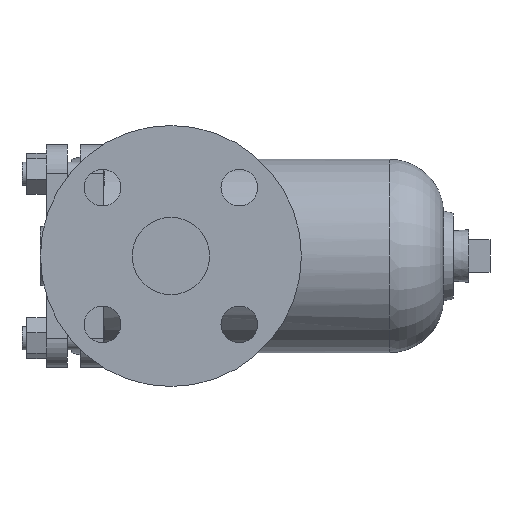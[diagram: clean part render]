
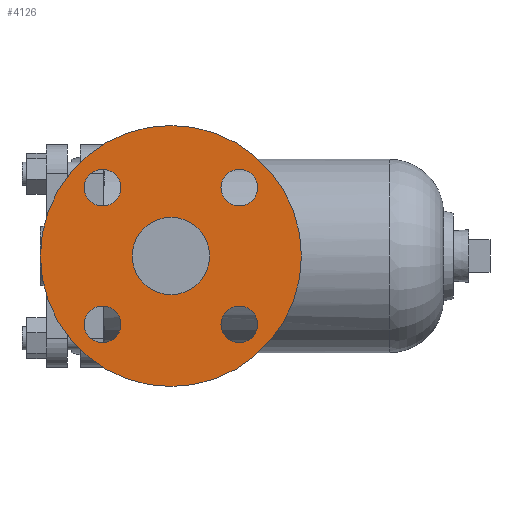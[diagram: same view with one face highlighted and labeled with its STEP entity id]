
A CAD part, left-side view. The second image highlights one B-rep face of the part: STEP entity #4126.
In plain terms, the highlighted planar face has unit normal (-1, 0, 0).
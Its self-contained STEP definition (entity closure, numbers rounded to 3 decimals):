
#6 = EDGE_LOOP ( 'NONE', ( #1291, #6515 ) ) ;
#8 = DIRECTION ( 'NONE',  ( -1., 0., 0. ) ) ;
#21 = DIRECTION ( 'NONE',  ( 0., 1., 0. ) ) ;
#23 = FACE_BOUND ( 'NONE', #902, .T. ) ;
#52 = CARTESIAN_POINT ( 'NONE',  ( -100., -35.355, -35.355 ) ) ;
#58 = ORIENTED_EDGE ( 'NONE', *, *, #4961, .F. ) ;
#77 = AXIS2_PLACEMENT_3D ( 'NONE', #6302, #3018, #5700 ) ;
#201 = AXIS2_PLACEMENT_3D ( 'NONE', #5843, #615, #2774 ) ;
#218 = EDGE_CURVE ( 'NONE', #6086, #3361, #2965, .T. ) ;
#234 = DIRECTION ( 'NONE',  ( -1., 0., 0. ) ) ;
#579 = DIRECTION ( 'NONE',  ( -1., 0., 0. ) ) ;
#615 = DIRECTION ( 'NONE',  ( -1., 0., 0. ) ) ;
#887 = ORIENTED_EDGE ( 'NONE', *, *, #1811, .F. ) ;
#902 = EDGE_LOOP ( 'NONE', ( #4850, #887 ) ) ;
#981 = VERTEX_POINT ( 'NONE', #5425 ) ;
#1022 = EDGE_LOOP ( 'NONE', ( #1280, #4246 ) ) ;
#1065 = VERTEX_POINT ( 'NONE', #3211 ) ;
#1072 = EDGE_CURVE ( 'NONE', #2814, #4235, #7070, .T. ) ;
#1126 = CARTESIAN_POINT ( 'NONE',  ( -100., 35.355, 44.855 ) ) ;
#1136 = AXIS2_PLACEMENT_3D ( 'NONE', #5120, #6620, #6235 ) ;
#1207 = EDGE_CURVE ( 'NONE', #4428, #5817, #6719, .T. ) ;
#1218 = AXIS2_PLACEMENT_3D ( 'NONE', #4387, #2176, #2711 ) ;
#1221 = CARTESIAN_POINT ( 'NONE',  ( -100., -35.355, 35.355 ) ) ;
#1261 = AXIS2_PLACEMENT_3D ( 'NONE', #1838, #2939, #6680 ) ;
#1278 = CARTESIAN_POINT ( 'NONE',  ( -100., -35.355, 25.855 ) ) ;
#1280 = ORIENTED_EDGE ( 'NONE', *, *, #5611, .F. ) ;
#1291 = ORIENTED_EDGE ( 'NONE', *, *, #218, .T. ) ;
#1491 = EDGE_CURVE ( 'NONE', #3361, #6086, #6940, .T. ) ;
#1573 = AXIS2_PLACEMENT_3D ( 'NONE', #3428, #234, #1854 ) ;
#1689 = CIRCLE ( 'NONE', #1218, 9.5 ) ;
#1721 = CARTESIAN_POINT ( 'NONE',  ( -100., -35.355, -44.855 ) ) ;
#1733 = AXIS2_PLACEMENT_3D ( 'NONE', #2810, #2842, #6097 ) ;
#1811 = EDGE_CURVE ( 'NONE', #5252, #6613, #4010, .T. ) ;
#1824 = EDGE_CURVE ( 'NONE', #981, #3734, #3328, .T. ) ;
#1838 = CARTESIAN_POINT ( 'NONE',  ( -100., 0., 0. ) ) ;
#1854 = DIRECTION ( 'NONE',  ( 0., -1., 0. ) ) ;
#2066 = ORIENTED_EDGE ( 'NONE', *, *, #1824, .F. ) ;
#2089 = DIRECTION ( 'NONE',  ( 0., 0., 1. ) ) ;
#2145 = DIRECTION ( 'NONE',  ( -1., 0., 0. ) ) ;
#2176 = DIRECTION ( 'NONE',  ( -1., 0., 0. ) ) ;
#2177 = PLANE ( 'NONE',  #1733 ) ;
#2190 = AXIS2_PLACEMENT_3D ( 'NONE', #6615, #6158, #4540 ) ;
#2205 = CARTESIAN_POINT ( 'NONE',  ( -100., 0., 20. ) ) ;
#2258 = EDGE_CURVE ( 'NONE', #6613, #5252, #2950, .T. ) ;
#2304 = FACE_BOUND ( 'NONE', #2381, .T. ) ;
#2381 = EDGE_LOOP ( 'NONE', ( #4799, #4012 ) ) ;
#2562 = EDGE_CURVE ( 'NONE', #5817, #4428, #3188, .T. ) ;
#2582 = CIRCLE ( 'NONE', #6576, 9.5 ) ;
#2711 = DIRECTION ( 'NONE',  ( 0., 1., 0. ) ) ;
#2754 = CARTESIAN_POINT ( 'NONE',  ( -100., 0., -67.5 ) ) ;
#2774 = DIRECTION ( 'NONE',  ( 0., 0., 1. ) ) ;
#2810 = CARTESIAN_POINT ( 'NONE',  ( -100., 0., 0. ) ) ;
#2814 = VERTEX_POINT ( 'NONE', #1721 ) ;
#2842 = DIRECTION ( 'NONE',  ( 1., 0., 0. ) ) ;
#2939 = DIRECTION ( 'NONE',  ( -1., 0., 0. ) ) ;
#2950 = CIRCLE ( 'NONE', #201, 9.5 ) ;
#2965 = CIRCLE ( 'NONE', #6272, 67.5 ) ;
#3008 = ORIENTED_EDGE ( 'NONE', *, *, #2562, .F. ) ;
#3018 = DIRECTION ( 'NONE',  ( -1., 0., 0. ) ) ;
#3036 = CARTESIAN_POINT ( 'NONE',  ( -100., 0., 67.5 ) ) ;
#3188 = CIRCLE ( 'NONE', #4999, 9.5 ) ;
#3211 = CARTESIAN_POINT ( 'NONE',  ( -100., 35.355, 25.855 ) ) ;
#3214 = EDGE_CURVE ( 'NONE', #1065, #4119, #2582, .T. ) ;
#3265 = CARTESIAN_POINT ( 'NONE',  ( -100., 0., 0. ) ) ;
#3328 = CIRCLE ( 'NONE', #1261, 20. ) ;
#3331 = DIRECTION ( 'NONE',  ( 0., 0., 1. ) ) ;
#3361 = VERTEX_POINT ( 'NONE', #2754 ) ;
#3409 = DIRECTION ( 'NONE',  ( 0., 0., -1. ) ) ;
#3428 = CARTESIAN_POINT ( 'NONE',  ( -100., 35.355, 35.355 ) ) ;
#3700 = CARTESIAN_POINT ( 'NONE',  ( -100., 0., 0. ) ) ;
#3734 = VERTEX_POINT ( 'NONE', #2205 ) ;
#3759 = CARTESIAN_POINT ( 'NONE',  ( -100., 35.355, 35.355 ) ) ;
#3895 = EDGE_LOOP ( 'NONE', ( #58, #2066 ) ) ;
#3924 = FACE_BOUND ( 'NONE', #7010, .T. ) ;
#3997 = CARTESIAN_POINT ( 'NONE',  ( -100., 35.355, -44.855 ) ) ;
#4010 = CIRCLE ( 'NONE', #2190, 9.5 ) ;
#4012 = ORIENTED_EDGE ( 'NONE', *, *, #3214, .F. ) ;
#4119 = VERTEX_POINT ( 'NONE', #1126 ) ;
#4126 = ADVANCED_FACE ( 'NONE', ( #4388, #3924, #2304, #23, #5524, #7060 ), #2177, .F. ) ;
#4235 = VERTEX_POINT ( 'NONE', #4673 ) ;
#4246 = ORIENTED_EDGE ( 'NONE', *, *, #1072, .F. ) ;
#4387 = CARTESIAN_POINT ( 'NONE',  ( -100., -35.355, -35.355 ) ) ;
#4388 = FACE_BOUND ( 'NONE', #1022, .T. ) ;
#4428 = VERTEX_POINT ( 'NONE', #1278 ) ;
#4477 = CARTESIAN_POINT ( 'NONE',  ( -100., -35.355, 44.855 ) ) ;
#4540 = DIRECTION ( 'NONE',  ( 0., 0., 1. ) ) ;
#4641 = CIRCLE ( 'NONE', #77, 20. ) ;
#4673 = CARTESIAN_POINT ( 'NONE',  ( -100., -35.355, -25.855 ) ) ;
#4712 = DIRECTION ( 'NONE',  ( -1., 0., 0. ) ) ;
#4799 = ORIENTED_EDGE ( 'NONE', *, *, #5263, .F. ) ;
#4850 = ORIENTED_EDGE ( 'NONE', *, *, #2258, .F. ) ;
#4961 = EDGE_CURVE ( 'NONE', #3734, #981, #4641, .T. ) ;
#4999 = AXIS2_PLACEMENT_3D ( 'NONE', #1221, #4712, #3409 ) ;
#5120 = CARTESIAN_POINT ( 'NONE',  ( -100., -35.355, 35.355 ) ) ;
#5252 = VERTEX_POINT ( 'NONE', #3997 ) ;
#5263 = EDGE_CURVE ( 'NONE', #4119, #1065, #5672, .T. ) ;
#5385 = DIRECTION ( 'NONE',  ( -1., 0., 0. ) ) ;
#5425 = CARTESIAN_POINT ( 'NONE',  ( -100., 0., -20. ) ) ;
#5479 = AXIS2_PLACEMENT_3D ( 'NONE', #52, #5385, #21 ) ;
#5524 = FACE_BOUND ( 'NONE', #3895, .T. ) ;
#5611 = EDGE_CURVE ( 'NONE', #4235, #2814, #1689, .T. ) ;
#5672 = CIRCLE ( 'NONE', #1573, 9.5 ) ;
#5695 = AXIS2_PLACEMENT_3D ( 'NONE', #3700, #579, #2089 ) ;
#5700 = DIRECTION ( 'NONE',  ( 0., 0., 1. ) ) ;
#5817 = VERTEX_POINT ( 'NONE', #4477 ) ;
#5843 = CARTESIAN_POINT ( 'NONE',  ( -100., 35.355, -35.355 ) ) ;
#6086 = VERTEX_POINT ( 'NONE', #3036 ) ;
#6097 = DIRECTION ( 'NONE',  ( 0., 0., -1. ) ) ;
#6158 = DIRECTION ( 'NONE',  ( -1., 0., 0. ) ) ;
#6235 = DIRECTION ( 'NONE',  ( 0., 0., -1. ) ) ;
#6272 = AXIS2_PLACEMENT_3D ( 'NONE', #3265, #8, #3331 ) ;
#6302 = CARTESIAN_POINT ( 'NONE',  ( -100., 0., 0. ) ) ;
#6500 = DIRECTION ( 'NONE',  ( 0., -1., 0. ) ) ;
#6515 = ORIENTED_EDGE ( 'NONE', *, *, #1491, .T. ) ;
#6576 = AXIS2_PLACEMENT_3D ( 'NONE', #3759, #2145, #6500 ) ;
#6613 = VERTEX_POINT ( 'NONE', #7036 ) ;
#6615 = CARTESIAN_POINT ( 'NONE',  ( -100., 35.355, -35.355 ) ) ;
#6620 = DIRECTION ( 'NONE',  ( -1., 0., 0. ) ) ;
#6648 = ORIENTED_EDGE ( 'NONE', *, *, #1207, .F. ) ;
#6680 = DIRECTION ( 'NONE',  ( 0., 0., 1. ) ) ;
#6719 = CIRCLE ( 'NONE', #1136, 9.5 ) ;
#6940 = CIRCLE ( 'NONE', #5695, 67.5 ) ;
#7010 = EDGE_LOOP ( 'NONE', ( #3008, #6648 ) ) ;
#7036 = CARTESIAN_POINT ( 'NONE',  ( -100., 35.355, -25.855 ) ) ;
#7060 = FACE_OUTER_BOUND ( 'NONE', #6, .T. ) ;
#7070 = CIRCLE ( 'NONE', #5479, 9.5 ) ;
